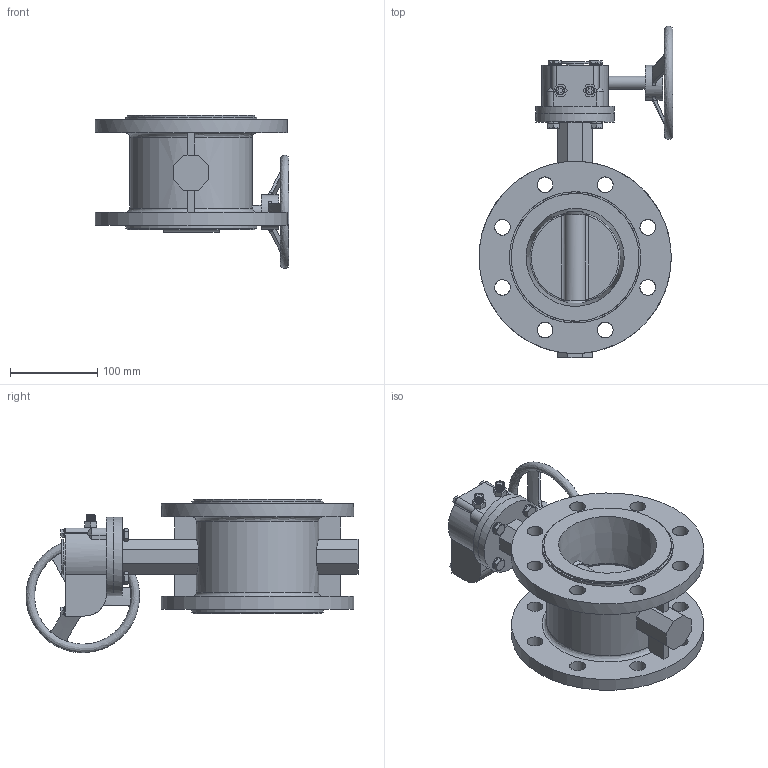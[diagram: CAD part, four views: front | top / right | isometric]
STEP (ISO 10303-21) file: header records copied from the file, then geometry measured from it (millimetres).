
FILE_DESCRIPTION (( 'STEP AP214' ), '1' );
FILE_NAME ('恦謫 邧楊擘評概 Fig.3226-204B-100-16.STEP', '2026-03-19T08:31:35', ( '' ), ( '' ), 'SwSTEP 2.0', 'SolidWorks 2024', '' );
FILE_SCHEMA (( 'AUTOMOTIVE_DESIGN' ));
Length unit declared in the file: millimetre
Products named in the file (1): 涡轮 双法兰蝶阀 Fig.3226-204B-100-16
Bounding box: 221.99 x 379.98 x 175.35 mm (x, y, z)
Surface area: 320982.7 mm2 (no closed solid volume)
Topology: 0 solids, 1 shells, 564 faces, 1480 edges, 974 vertices
Faces by surface type: plane 299, bspline 133, cylinder 90, cone 42
Full cylindrical faces by diameter (mm): 6 x4, 8 x4, 8.68 x4, 10 x10, 13.68 x4, 15 x1, 18 x16, 20 x1, 40 x2, 50 x1, 90 x1, 90.02 x1, 146.1 x2, 150.1 x2, 220 x2
Entity records: 66266 total; most frequent: CARTESIAN_POINT 48242, ORIENTED_EDGE 2748, DIRECTION 1664, EDGE_CURVE 1385, VERTEX_POINT 938, EDGE_LOOP 729, VECTOR 638, LINE 638
